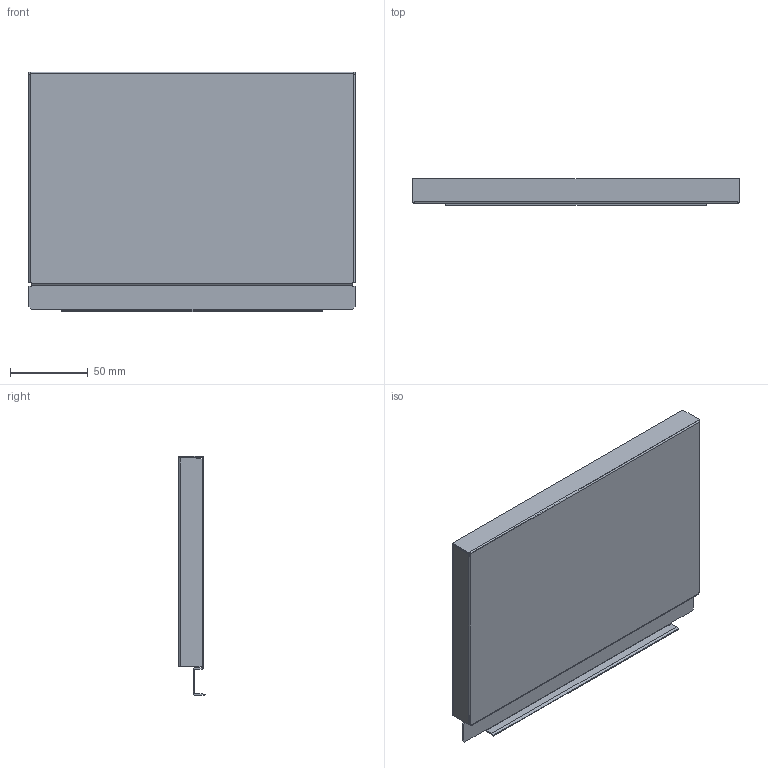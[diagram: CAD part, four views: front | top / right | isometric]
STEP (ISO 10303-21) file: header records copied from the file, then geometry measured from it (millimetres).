
FILE_DESCRIPTION (( 'STEP AP214' ), '1' );
FILE_NAME ('_STRW_H154_KAB_300.step', '2010-08-24T14:40:32', ( 'grass' ), ( '' ), 'SwSTEP 2.0', 'SolidWorks 2009', '' );
FILE_SCHEMA (( 'AUTOMOTIVE_DESIGN' ));
Length unit declared in the file: millimetre
Products named in the file (1): _STRW_H154_KAB_300
Bounding box: 210 x 17 x 154.14 mm (x, y, z)
Volume: 34502.7 mm3; surface area: 86960.9 mm2
Topology: 1 solids, 1 shells, 76 faces, 214 edges, 140 vertices
Faces by surface type: plane 54, cylinder 22
Entity records: 2472 total; most frequent: CARTESIAN_POINT 431, ORIENTED_EDGE 428, DIRECTION 412, EDGE_CURVE 214, LINE 170, VECTOR 170, VERTEX_POINT 140, AXIS2_PLACEMENT_3D 121
